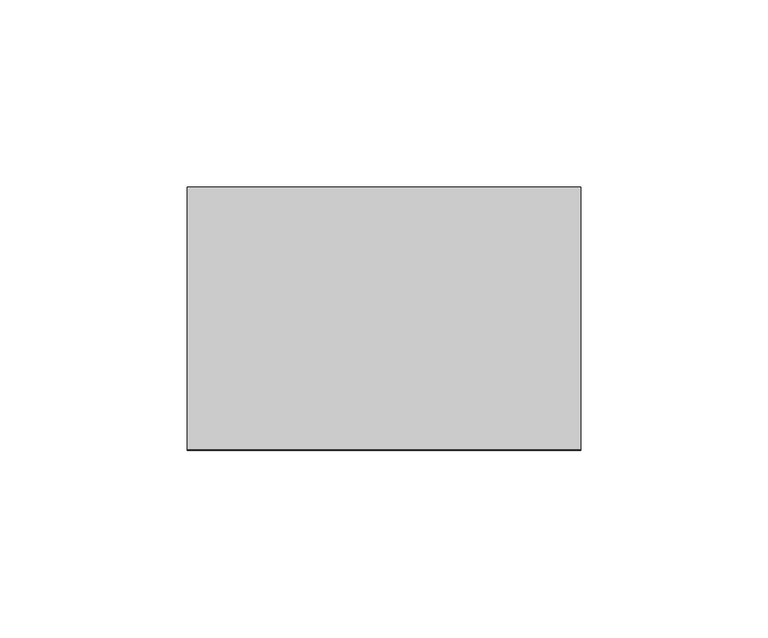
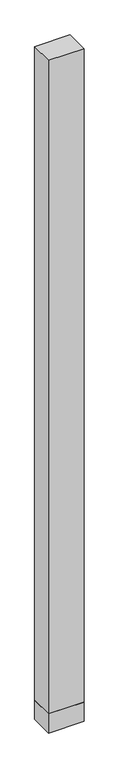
"""IFC4 building model written with IfcOpenShell, lengths in millimetres: plate geometry, 営_パーティションパネル_下部 : パーティションパネル_下部."""

from ifc_helpers import new_model, si_unit, frame, origin, origin_with_axes, place, context, project, spatial, polyline, outline, extrude, source, transform, mapped, element, save


def plate_79e9bfaa(model_context):
    return source(origin(), model_context, "Body", "SweptSolid", [
        extrude(outline(polyline([(-52.4999998, -35.0), (-52.4999998, 35.0), (52.4999998, 35.0), (52.4999998, -35.0), (-52.4999998, -35.0)])), origin_with_axes(), (0.0, 0.0, 1.0), 60.0),
        extrude(outline(polyline([(-52.4999998, -35.0), (-52.4999998, 35.0), (52.4999998, 35.0), (52.4999998, -35.0), (-52.4999998, -35.0)])), frame((0.0, 0.0, 60.0), z_axis=(0.0, 0.0, 1.0), x_axis=(1.0, 0.0, 0.0)), (0.0, 0.0, 1.0), 2040.0),
    ])


if __name__ == "__main__":
    model = new_model("IFC4")
    model_context = context("Model", 3, world=origin())
    ifc_project = project(units=[si_unit("LENGTHUNIT", "METRE", prefix="MILLI")], contexts=[model_context])
    site = spatial("IfcSite", under=ifc_project)
    building = spatial("IfcBuilding", under=site)
    placement = place(None, origin())
    plate_shape = plate_79e9bfaa(model_context)
    element("IfcPlate", 1, ObjectType="営_パーティションパネル_下部 : パーティションパネル_下部", at=placement, inside=building, context=model_context, shape_type="MappedRepresentation", body=[
        mapped(plate_shape, transform((0.0, 0.0, 0.0), x_axis=(1.0, 0.0, 0.0), y_axis=(0.0, 1.0, 0.0), z_axis=(0.0, 0.0, 1.0))),
    ])
    save(model, "model.ifc")
